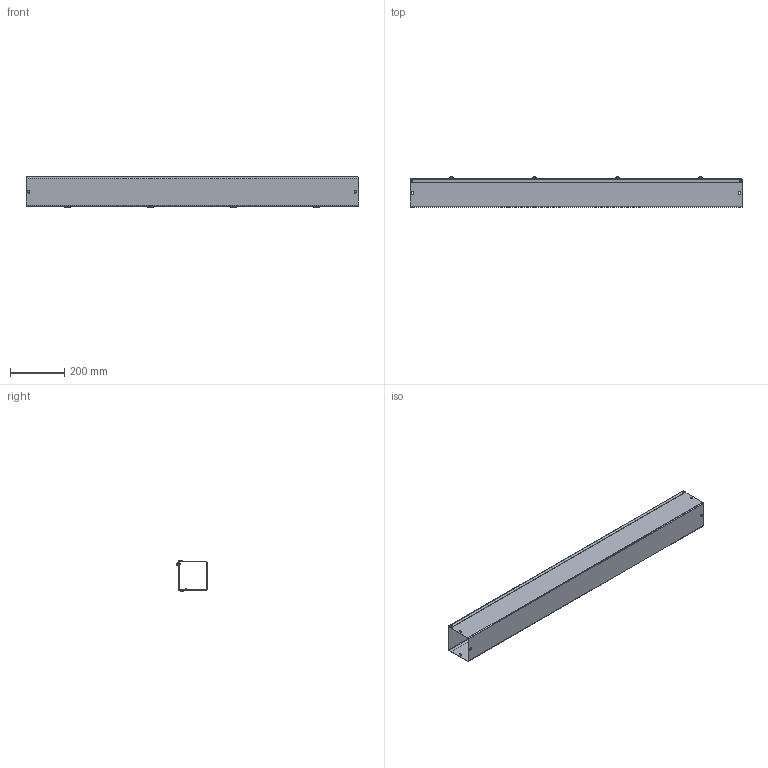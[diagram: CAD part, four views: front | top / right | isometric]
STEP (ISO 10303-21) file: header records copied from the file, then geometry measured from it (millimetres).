
FILE_DESCRIPTION (( 'STEP AP203' ), '1' );
FILE_NAME ('f44g48.STEP', '2015-09-01T15:46:32', ( '' ), ( '' ), 'SwSTEP 2.0', 'SolidWorks 2014', '' );
FILE_SCHEMA (( 'CONFIG_CONTROL_DESIGN' ));
Length unit declared in the file: inch
Products named in the file (7): 16111003_INSTALLED 095 THICKNESS; 43401010; f44g48; 87780048; 16104001; 43301019; 16118001
Assembly tree (15 placements, depth 2):
  f44g48
    43301019
    43401010
    16111003_INSTALLED 095 THICKNESS  x4
    16104001  x4
    16118001  x4
    87780048
Bounding box: 1219.2 x 110.54 x 115.52 mm (x, y, z)
Volume: 781877.2 mm3; surface area: 1136095.9 mm2
Topology: 15 solids, 15 shells, 564 faces, 1316 edges, 810 vertices
Faces by surface type: plane 284, cylinder 176, cone 48, torus 24, bspline 16, sphere 16
Entity records: 10520 total; most frequent: DIRECTION 1739, CARTESIAN_POINT 1692, ORIENTED_EDGE 1542, EDGE_CURVE 771, AXIS2_PLACEMENT_3D 640, VERTEX_POINT 483, LINE 459, VECTOR 459
